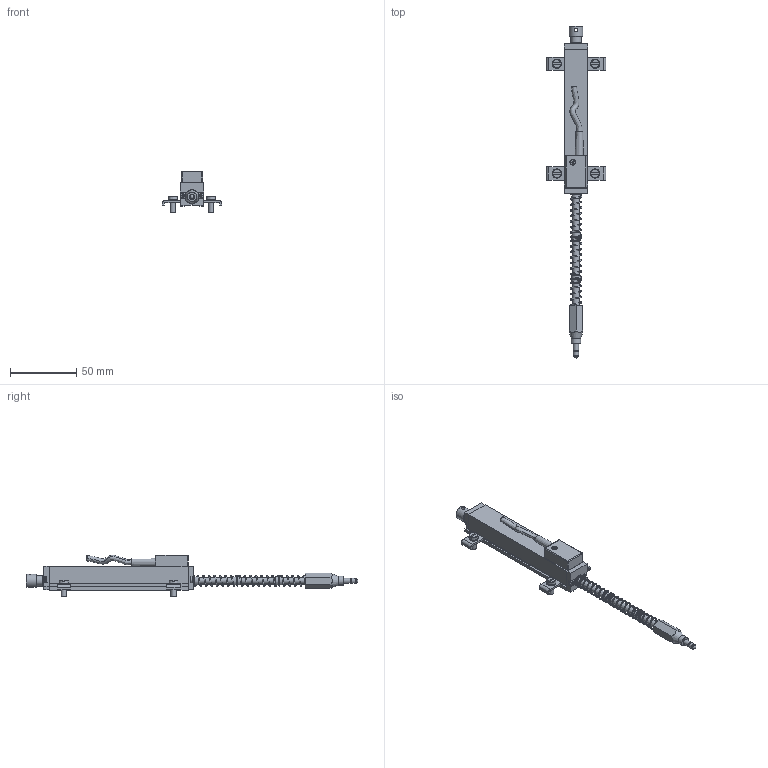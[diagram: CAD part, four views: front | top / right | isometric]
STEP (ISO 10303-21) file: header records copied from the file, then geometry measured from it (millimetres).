
FILE_DESCRIPTION( ( 'Unknown' ), '1' );
FILE_NAME( 'P:/Fertigung_TTS/2_TTS/1_CAD-Daten/4_Handelsware/3_Linearpotentiometer/LRW2_LRW3/4_Step/LRW2-F-75-S.stp', 'Unknown', ( 'WayCon' ), ( 'WayCon Positionsmesstechnik' ), 'PSStep 17.0.49', 'Unknown', ' ' );
FILE_SCHEMA( ( 'AUTOMOTIVE_DESIGN { 1 0 10303 214 1 1 1 1 }' ) );
Length unit declared in the file: millimetre
Products named in the file (35): BUS023X; Molla PY compressa MIM401X_Posizione Lavoro; MIM600X; MIM892X_ISO 1207 - M4 x 10 --- 10S; TES053X; BUS015X; TES045X; PRE040X; BUS022X; TAS000X_Assemblato; MIM797X_ISO 7046-1 - M2 x 10 - Z --- 10S; MIM828X_ISO 7045 - M2.5 x 8 - Z --- 8S; STA029X; MIM510X_DIN 6905-3.6-FSt; PAS000X; PMI-SLIM cavoX; CUS046X; 1; PUN001X
Bounding box: 45 x 250.99 x 31.7 mm (x, y, z)
Volume: 1169.1 mm3; surface area: 23039.8 mm2
Topology: 10 solids, 385 shells, 457 faces, 1993 edges, 1880 vertices
Faces by surface type: plane 284, cylinder 85, cone 54, torus 20, sphere 9, bspline 5
Full cylindrical faces by diameter (mm): 2.5 x2, 3.2 x1, 3.8 x3, 4 x10, 4.2 x1, 4.3 x4, 5 x5, 5.1 x4, 6.3 x6, 7 x2, 7.8 x4, 8 x1, 8.5 x1, 10 x1
Entity records: 27861 total; most frequent: CARTESIAN_POINT 8754, DIRECTION 3345, ORIENTED_EDGE 1968, EDGE_CURVE 1850, VERTEX_POINT 1834, AXIS2_PLACEMENT_3D 1214, LINE 917, VECTOR 917
